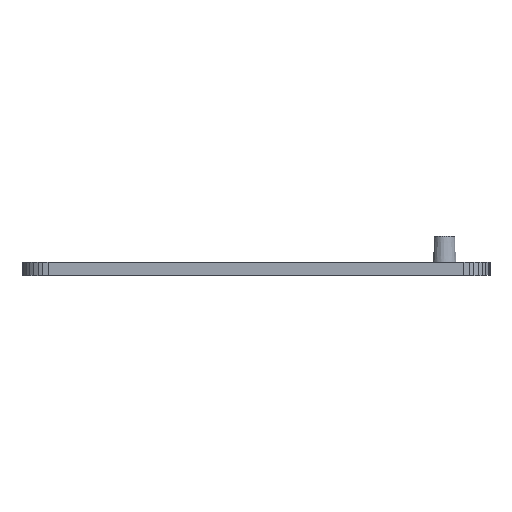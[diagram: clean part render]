
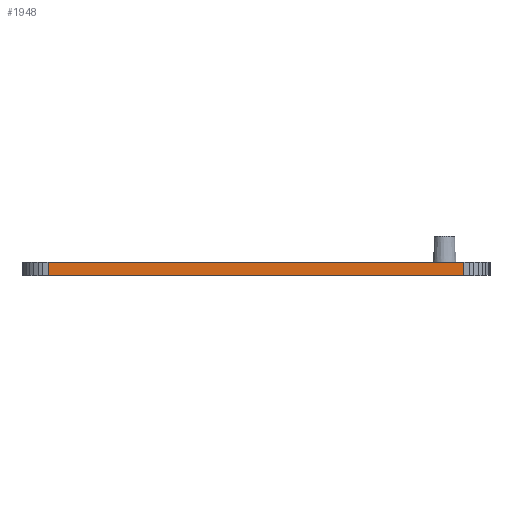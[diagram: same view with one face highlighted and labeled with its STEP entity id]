
A CAD part, left-side view. The second image highlights one B-rep face of the part: STEP entity #1948.
In plain terms, the highlighted planar face has unit normal (-1, 0, 0).
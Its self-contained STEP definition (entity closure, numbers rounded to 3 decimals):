
#238 = VERTEX_POINT('',#239);
#239 = CARTESIAN_POINT('',(-28.5,21.,16.5));
#245 = EDGE_CURVE('',#238,#246,#248,.T.);
#246 = VERTEX_POINT('',#247);
#247 = CARTESIAN_POINT('',(-28.5,-11.,16.5));
#248 = LINE('',#249,#250);
#249 = CARTESIAN_POINT('',(-28.5,21.,16.5));
#250 = VECTOR('',#251,1.);
#251 = DIRECTION('',(0.,-1.,0.));
#867 = VERTEX_POINT('',#868);
#868 = CARTESIAN_POINT('',(-28.5,21.,17.5));
#874 = EDGE_CURVE('',#867,#875,#877,.T.);
#875 = VERTEX_POINT('',#876);
#876 = CARTESIAN_POINT('',(-28.5,-11.,17.5));
#877 = LINE('',#878,#879);
#878 = CARTESIAN_POINT('',(-28.5,21.,17.5));
#879 = VECTOR('',#880,1.);
#880 = DIRECTION('',(0.,-1.,0.));
#1920 = EDGE_CURVE('',#238,#867,#1921,.T.);
#1921 = LINE('',#1922,#1923);
#1922 = CARTESIAN_POINT('',(-28.5,21.,16.5));
#1923 = VECTOR('',#1924,1.);
#1924 = DIRECTION('',(0.,0.,1.));
#1948 = ADVANCED_FACE('',(#1949),#1960,.F.);
#1949 = FACE_BOUND('',#1950,.F.);
#1950 = EDGE_LOOP('',(#1951,#1952,#1953,#1959));
#1951 = ORIENTED_EDGE('',*,*,#1920,.T.);
#1952 = ORIENTED_EDGE('',*,*,#874,.T.);
#1953 = ORIENTED_EDGE('',*,*,#1954,.F.);
#1954 = EDGE_CURVE('',#246,#875,#1955,.T.);
#1955 = LINE('',#1956,#1957);
#1956 = CARTESIAN_POINT('',(-28.5,-11.,16.5));
#1957 = VECTOR('',#1958,1.);
#1958 = DIRECTION('',(0.,0.,1.));
#1959 = ORIENTED_EDGE('',*,*,#245,.F.);
#1960 = PLANE('',#1961);
#1961 = AXIS2_PLACEMENT_3D('',#1962,#1963,#1964);
#1962 = CARTESIAN_POINT('',(-28.5,21.,16.5));
#1963 = DIRECTION('',(1.,0.,-0.));
#1964 = DIRECTION('',(0.,-1.,0.));
